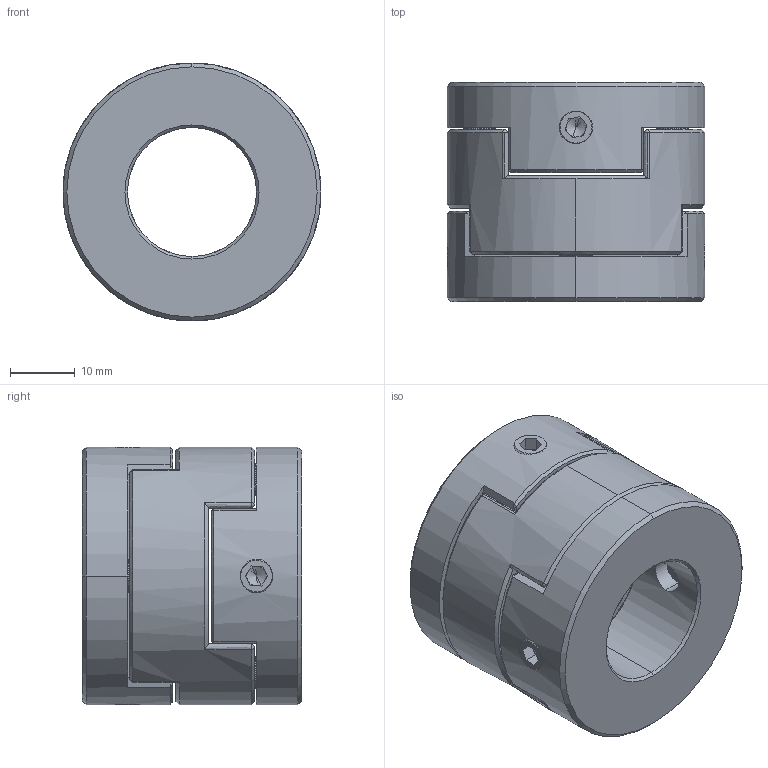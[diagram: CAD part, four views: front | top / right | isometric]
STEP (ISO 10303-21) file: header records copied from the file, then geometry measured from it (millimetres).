
FILE_DESCRIPTION (( 'STEP AP203' ), '1' );
FILE_NAME ('LZ-D-D40L35-20-20.STEP', '2021-10-30T05:27:05', ( '' ), ( '' ), 'SwSTEP 2.0', 'SolidWorks 2018', '' );
FILE_SCHEMA (( 'CONFIG_CONTROL_DESIGN' ));
Length unit declared in the file: millimetre
Products named in the file (1): LZ-D-D40L35-20-20
Bounding box: 40 x 34 x 40 mm (x, y, z)
Volume: 30830.6 mm3; surface area: 12116 mm2
Topology: 1 solids, 1 shells, 219 faces, 554 edges, 335 vertices
Faces by surface type: plane 90, bspline 55, cone 48, cylinder 26
Entity records: 7840 total; most frequent: CARTESIAN_POINT 3043, ORIENTED_EDGE 1092, DIRECTION 804, EDGE_CURVE 546, VERTEX_POINT 335, AXIS2_PLACEMENT_3D 291, EDGE_LOOP 243, VECTOR 222
